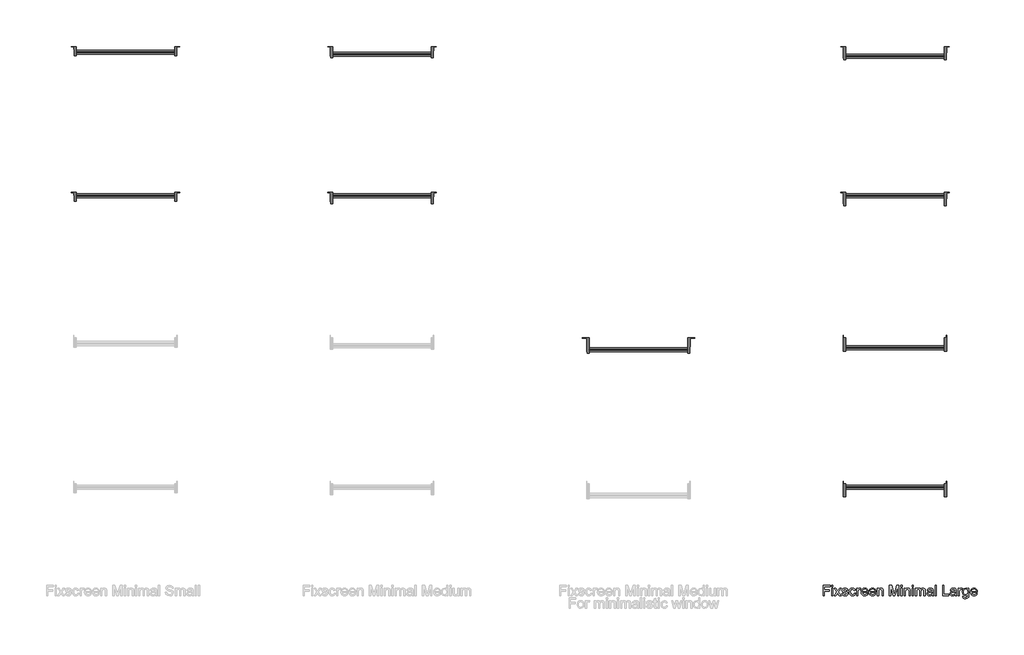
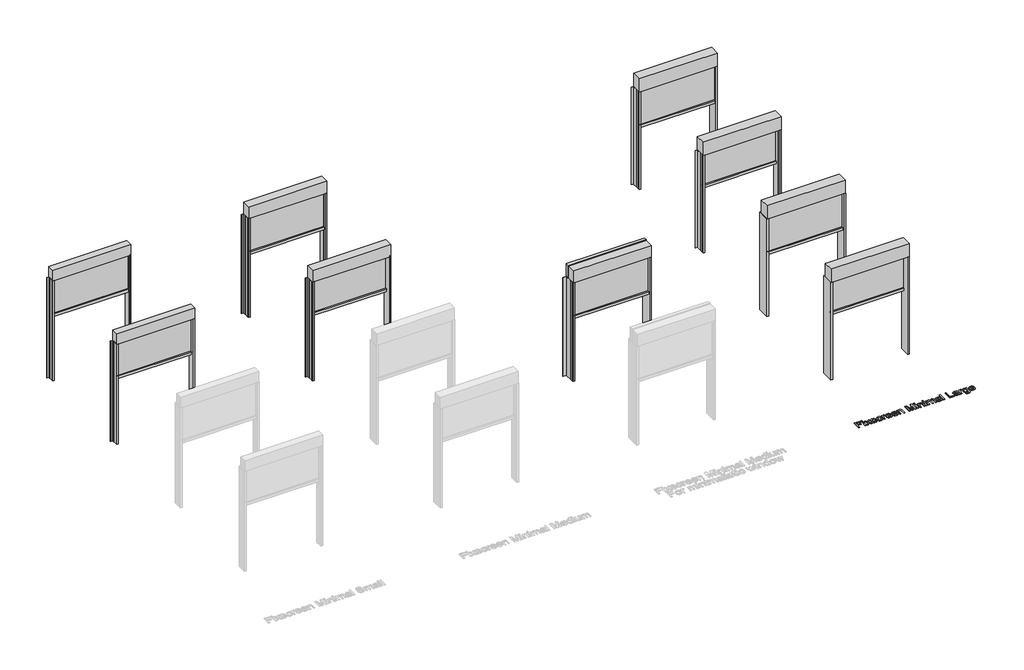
# One storey, part 3 of 3: 10 proxies.
"""IFC4 building model written with IfcOpenShell, lengths in millimetres."""

from ifc_helpers import new_model, si_unit, origin, origin_with_axes, place, context, project, spatial, polyline, outline, extrude, transform, mapped, element, save
from components import generic_models_23fb29be, generic_models_294ff030, generic_models_c61ce915, generic_models_3f5b47c7, generic_models_9211857c, generic_models_f3f074a6, generic_models_7c2f78a0, generic_models_67a18d92, generic_models_946608be

model = new_model("IFC4")

# Units and contexts
model_context = context("Model", 3, world=origin())
ifc_project = project(units=[si_unit("LENGTHUNIT", "METRE", prefix="MILLI")], contexts=[model_context])

# Site, building, storey
site = spatial("IfcSite", under=ifc_project)
building = spatial("IfcBuilding", under=site)
storey = spatial("IfcBuildingStorey", under=building, Name="Fixscreen Mini Overview Top", Elevation=0.0)

# Proxies
placement = place(None, origin())
generic_models_shape = generic_models_23fb29be(model_context)
element("IfcBuildingElementProxy", 1, Name="Renson_Fixscreen_Minimal_Single : Recessed - Front of the window - Small - Access downwards - Fabric away from the window", ObjectType="Renson_Fixscreen_Minimal_Single : Recessed - Front of the window - Small - Access downwards - Fabric away from the window", at=placement, inside=storey, context=model_context, shape_type="MappedRepresentation", body=[
    mapped(generic_models_shape, transform((-7521.5461115, 2135.1171055, 0.0), x_axis=(1.0, 0.0, 0.0), y_axis=(0.0, 1.0, 0.0), z_axis=(0.0, 0.0, 1.0))),
])
generic_models_2_shape = generic_models_294ff030(model_context)
element("IfcBuildingElementProxy", 2, Name="Renson_Fixscreen_Minimal_Single : Recessed - Front of the window - Medium - Access downwards - Fabric away from the window", ObjectType="Renson_Fixscreen_Minimal_Single : Recessed - Front of the window - Medium - Access downwards - Fabric away from the window", at=placement, inside=storey, context=model_context, shape_type="MappedRepresentation", body=[
    mapped(generic_models_2_shape, transform((-5021.5461115, 2135.1171055, 0.0), x_axis=(1.0, 0.0, 0.0), y_axis=(0.0, 1.0, 0.0), z_axis=(0.0, 0.0, 1.0))),
])
generic_models_3_shape = generic_models_c61ce915(model_context)
element("IfcBuildingElementProxy", 3, Name="Renson_Fixscreen_Minimal_Single : Recessed - Front of the window - Large - Access downwards - Fabric close to the window", ObjectType="Renson_Fixscreen_Minimal_Single : Recessed - Front of the window - Large - Access downwards - Fabric close to the window", at=placement, inside=storey, context=model_context, shape_type="MappedRepresentation", body=[
    mapped(generic_models_3_shape, transform((-21.5461115, -2124.4443675, 0.0), x_axis=(1.0, 0.0, 0.0), y_axis=(0.0, 1.0, 0.0), z_axis=(0.0, 0.0, 1.0))),
])
generic_models_4_shape = generic_models_3f5b47c7(model_context)
element("IfcBuildingElementProxy", 4, Name="Renson_Fixscreen_Minimal_Single : Recessed - Front of the window - Large - Access downwards - Fabric away from the window", ObjectType="Renson_Fixscreen_Minimal_Single : Recessed - Front of the window - Large - Access downwards - Fabric away from the window", at=placement, inside=storey, context=model_context, shape_type="MappedRepresentation", body=[
    mapped(generic_models_4_shape, transform((-21.5461115, -704.5905432, 0.0), x_axis=(1.0, 0.0, 0.0), y_axis=(0.0, 1.0, 0.0), z_axis=(0.0, 0.0, 1.0))),
])
generic_models_5_shape = generic_models_9211857c(model_context)
element("IfcBuildingElementProxy", 5, Name="Renson_Fixscreen_Minimal_Single : Recessed - Front of the window - Large - Access downwards - Fabric close to the window", ObjectType="Renson_Fixscreen_Minimal_Single : Recessed - Front of the window - Large - Access downwards - Fabric close to the window", at=placement, inside=storey, context=model_context, shape_type="MappedRepresentation", body=[
    mapped(generic_models_5_shape, transform((-21.5461115, 715.2632811, 0.0), x_axis=(1.0, 0.0, 0.0), y_axis=(0.0, 1.0, 0.0), z_axis=(0.0, 0.0, 1.0))),
])
generic_models_6_shape = generic_models_f3f074a6(model_context)
element("IfcBuildingElementProxy", 6, Name="Renson_Fixscreen_Minimal_Single : Recessed - Front of the window - Large - Access downwards - Fabric away from the window", ObjectType="Renson_Fixscreen_Minimal_Single : Recessed - Front of the window - Large - Access downwards - Fabric away from the window", at=placement, inside=storey, context=model_context, shape_type="MappedRepresentation", body=[
    mapped(generic_models_6_shape, transform((-21.5461115, 2135.1171055, 0.0), x_axis=(1.0, 0.0, 0.0), y_axis=(0.0, 1.0, 0.0), z_axis=(0.0, 0.0, 1.0))),
])
generic_models_7_shape = generic_models_7c2f78a0(model_context)
element("IfcBuildingElementProxy", 7, Name="Renson_Fixscreen_Minimal_Single : Recessed - Front of the window - Small - Access downwards - Fabric close to the window", ObjectType="Renson_Fixscreen_Minimal_Single : Recessed - Front of the window - Small - Access downwards - Fabric close to the window", at=placement, inside=storey, context=model_context, shape_type="MappedRepresentation", body=[
    mapped(generic_models_7_shape, transform((-7521.5461115, 715.2632811, 0.0), x_axis=(1.0, 0.0, 0.0), y_axis=(0.0, 1.0, 0.0), z_axis=(0.0, 0.0, 1.0))),
])
generic_models_8_shape = generic_models_67a18d92(model_context)
element("IfcBuildingElementProxy", 8, Name="Renson_Fixscreen_Minimal_Single : Recessed - Front of the window - Medium - Access downwards - Fabric close to the window", ObjectType="Renson_Fixscreen_Minimal_Single : Recessed - Front of the window - Medium - Access downwards - Fabric close to the window", at=placement, inside=storey, context=model_context, shape_type="MappedRepresentation", body=[
    mapped(generic_models_8_shape, transform((-5021.5461115, 715.2632811, 0.0), x_axis=(1.0, 0.0, 0.0), y_axis=(0.0, 1.0, 0.0), z_axis=(0.0, 0.0, 1.0))),
])
generic_models_9_shape = generic_models_946608be(model_context)
element("IfcBuildingElementProxy", 9, Name="Renson_Fixscreen_Minimal_Single : Recessed - Front of the window - Medium - Access downwards - Fabric away from the window - Minimalistic window", ObjectType="Renson_Fixscreen_Minimal_Single : Recessed - Front of the window - Medium - Access downwards - Fabric away from the window - Minimalistic window", at=placement, inside=storey, context=model_context, shape_type="MappedRepresentation", body=[
    mapped(generic_models_9_shape, transform((-2521.5461115, -704.5905432, 0.0), x_axis=(1.0, 0.0, 0.0), y_axis=(0.0, 1.0, 0.0), z_axis=(0.0, 0.0, 1.0))),
])
element("IfcBuildingElementProxy", 10, Name="100mm Arial", ObjectType="100mm Arial", at=placement, inside=storey, context=model_context, shape_type="SweptSolid", body=[
    extrude(outline(polyline([(-721.4949893, -2523.9021098), (-721.4949893, -2423.4457997), (-654.000906, -2423.4457997), (-654.000906, -2436.0028384), (-708.9379506, -2436.0028384), (-708.9379506, -2465.8258055), (-661.8490552, -2465.8258055), (-661.8490552, -2478.3828443), (-708.9379506, -2478.3828443), (-708.9379506, -2523.9021098), (-721.4949893, -2523.9021098)])), origin_with_axes(), (0.0, 0.0, 1.0), 5.0),
    extrude(outline(polyline([(-638.3046075, -2523.9021098), (-638.3046075, -2450.129507), (-625.7475687, -2450.129507), (-625.7475687, -2523.9021098), (-638.3046075, -2523.9021098)])), origin_with_axes(), (0.0, 0.0, 1.0), 5.0),
    extrude(outline(polyline([(-638.3046075, -2436.0028384), (-638.3046075, -2423.4457997), (-625.7475687, -2423.4457997), (-625.7475687, -2436.0028384), (-638.3046075, -2436.0028384)])), origin_with_axes(), (0.0, 0.0, 1.0), 5.0),
    extrude(outline(polyline([(-614.7601598, -2523.9021098), (-587.9292996, -2486.8196047), (-613.19053, -2450.129507), (-598.0828427, -2450.129507), (-585.8936859, -2467.7878428), (-580.2037777, -2476.1265014), (-575.274159, -2469.3084217), (-561.392745, -2450.129507), (-546.2850578, -2450.129507), (-572.8216124, -2486.8196047), (-547.2660764, -2523.9021098), (-562.3737637, -2523.9021098), (-577.7512311, -2501.6084609), (-580.5716597, -2497.5372335), (-599.6524725, -2523.9021098), (-614.7601598, -2523.9021098)])), origin_with_axes(), (0.0, 0.0, 1.0), 5.0),
    extrude(outline(polyline([(-540.987557, -2501.927292), (-528.4305183, -2500.3576621), (-522.6179827, -2509.6773393), (-509.3006545, -2512.9147009), (-496.4983611, -2509.9471195), (-492.3290318, -2502.981887), (-496.5228866, -2497.3410298), (-509.4478073, -2493.7603117), (-528.3569419, -2487.6166824), (-536.6097613, -2480.4429835), (-539.4179272, -2470.3139659), (-537.1615843, -2460.9575004), (-531.0056922, -2453.808327), (-523.0226529, -2450.0927188), (-512.219185, -2448.5598772), (-496.9398195, -2451.0246866), (-487.2277348, -2457.6956134), (-482.9112527, -2468.9650652), (-495.4682915, -2470.534695), (-500.1894438, -2463.6062508), (-511.2381664, -2461.116916), (-523.2556449, -2463.4958862), (-526.8608884, -2469.0386416), (-525.364835, -2472.6929361), (-520.6804709, -2475.4643138), (-509.8647402, -2478.1375896), (-491.4338523, -2484.048227), (-482.8744645, -2490.7436793), (-479.771993, -2501.6575118), (-483.4140248, -2513.6749903), (-493.9231871, -2522.3937936), (-509.4723328, -2525.4717397), (-522.1336048, -2523.9879489), (-531.3735742, -2519.5365768), (-537.541729, -2512.1666742), (-540.987557, -2501.927292)])), origin_with_axes(), (0.0, 0.0, 1.0), 5.0),
    extrude(outline(polyline([(-418.556429, -2497.2184024), (-405.9993903, -2498.7880323), (-409.5004006, -2509.9563165), (-416.0793569, -2518.3961426), (-425.1169913, -2523.7028404), (-435.9940356, -2525.4717397), (-449.3512177, -2523.0038646), (-459.7960007, -2515.6002395), (-466.5374383, -2503.5858266), (-468.7845841, -2487.2855886), (-464.9463486, -2466.4266794), (-453.2477012, -2453.0235121), (-436.1657139, -2448.5598772), (-425.555384, -2450.0927188), (-417.0726383, -2454.6912438), (-410.987257, -2462.1101974), (-407.5690201, -2472.1043249), (-420.1260589, -2473.6739547), (-425.9508571, -2464.2684384), (-436.067612, -2461.116916), (-444.1824757, -2462.6681517), (-450.6234763, -2467.321859), (-454.8265281, -2475.3294237), (-456.2275453, -2486.942232), (-454.8571849, -2498.7113902), (-450.7461036, -2506.7465461), (-444.421599, -2511.3726622), (-436.4109685, -2512.9147009), (-424.577431, -2509.0642027), (-418.556429, -2497.2184024)])), origin_with_axes(), (0.0, 0.0, 1.0), 5.0),
    extrude(outline(polyline([(-395.0119813, -2523.9021098), (-395.0119813, -2450.129507), (-384.0245724, -2450.129507), (-384.0245724, -2461.0433396), (-376.2254741, -2450.9878984), (-368.3773249, -2448.5598772), (-355.7712352, -2452.4349009), (-359.9650899, -2463.6920899), (-368.7942578, -2461.116916), (-375.8943803, -2463.5939881), (-380.4193289, -2470.4611186), (-382.4549426, -2485.1273475), (-382.4549426, -2523.9021098), (-395.0119813, -2523.9021098)])), origin_with_axes(), (0.0, 0.0, 1.0), 5.0),
    extrude(outline(polyline([(-296.2724538, -2501.927292), (-283.9606697, -2503.4969218), (-288.3967135, -2512.7736795), (-295.4753762, -2519.7082551), (-305.0372424, -2524.0308685), (-316.9228965, -2525.4717397), (-331.6565704, -2522.9854705), (-342.9934672, -2515.5266631), (-350.2223484, -2503.5796953), (-352.6319755, -2487.6289451), (-350.197823, -2471.1417003), (-342.8953654, -2458.8115221), (-331.7117527, -2451.1227884), (-317.634135, -2448.5598772), (-303.9949101, -2451.1166571), (-293.096406, -2458.7869967), (-285.9502982, -2471.0926494), (-283.5682623, -2487.5553687), (-283.6418387, -2490.939883), (-340.0749367, -2490.939883), (-337.9013673, -2500.339268), (-332.8521869, -2507.2493182), (-325.5650577, -2511.4983552), (-316.6776418, -2512.9147009), (-304.3658577, -2510.290476), (-296.2724538, -2501.927292)]), holes=[polyline([(-340.0749367, -2478.3828443), (-296.125301, -2478.3828443), (-301.1530216, -2467.0030279), (-308.4738734, -2462.588444), (-317.683186, -2461.116916), (-333.1464925, -2465.8135428), (-338.0117319, -2471.3041816), (-340.0749367, -2478.3828443)])]), origin_with_axes(), (0.0, 0.0, 1.0), 5.0),
    extrude(outline(polyline([(-219.3605914, -2501.927292), (-207.0488073, -2503.4969218), (-211.484851, -2512.7736795), (-218.5635137, -2519.7082551), (-228.1253799, -2524.0308685), (-240.011034, -2525.4717397), (-254.744708, -2522.9854705), (-266.0816048, -2515.5266631), (-273.310486, -2503.5796953), (-275.720113, -2487.6289451), (-273.2859605, -2471.1417003), (-265.9835029, -2458.8115221), (-254.7998903, -2451.1227884), (-240.7222726, -2448.5598772), (-227.0830476, -2451.1166571), (-216.1845435, -2458.7869967), (-209.0384357, -2471.0926494), (-206.6563998, -2487.5553687), (-206.7299762, -2490.939883), (-263.1630743, -2490.939883), (-260.9895048, -2500.339268), (-255.9403244, -2507.2493182), (-248.6531953, -2511.4983552), (-239.7657794, -2512.9147009), (-227.4539953, -2510.290476), (-219.3605914, -2501.927292)]), holes=[polyline([(-263.1630743, -2478.3828443), (-219.2134386, -2478.3828443), (-224.2411592, -2467.0030279), (-231.5620109, -2462.588444), (-240.7713235, -2461.116916), (-256.23463, -2465.8135428), (-261.0998694, -2471.3041816), (-263.1630743, -2478.3828443)])]), origin_with_axes(), (0.0, 0.0, 1.0), 5.0),
    extrude(outline(polyline([(-194.0993611, -2523.9021098), (-194.0993611, -2450.129507), (-181.5423223, -2450.129507), (-181.5423223, -2460.4302029), (-171.9406022, -2451.5274586), (-158.8317404, -2448.5598772), (-146.9736775, -2450.9511102), (-138.8802736, -2457.2296296), (-135.1156145, -2466.4634676), (-134.4534269, -2478.6035735), (-134.4534269, -2523.9021098), (-147.0104657, -2523.9021098), (-147.0104657, -2480.2958307), (-148.4574682, -2469.1857944), (-153.5710279, -2463.3119452), (-162.1917293, -2461.116916), (-175.8156259, -2466.0465347), (-180.1106482, -2473.1895768), (-181.5423223, -2484.7594655), (-181.5423223, -2523.9021098), (-194.0993611, -2523.9021098)])), origin_with_axes(), (0.0, 0.0, 1.0), 5.0),
    extrude(outline(polyline([(-76.3771226, -2523.9021098), (-76.3771226, -2423.4457997), (-54.7701867, -2423.4457997), (-34.2178459, -2494.250821), (-30.0730421, -2509.0396772), (-25.5848818, -2493.0245477), (-5.3758975, -2423.4457997), (16.2310383, -2423.4457997), (16.2310383, -2523.9021098), (3.6739996, -2523.9021098), (3.6739996, -2436.0028384), (-21.5627053, -2523.9021098), (-38.583379, -2523.9021098), (-63.8200838, -2436.0028384), (-63.8200838, -2523.9021098), (-76.3771226, -2523.9021098)])), origin_with_axes(), (0.0, 0.0, 1.0), 5.0),
    extrude(outline(polyline([(36.6362263, -2436.0028384), (36.6362263, -2423.4457997), (49.1932651, -2423.4457997), (49.1932651, -2436.0028384), (36.6362263, -2436.0028384)])), origin_with_axes(), (0.0, 0.0, 1.0), 5.0),
    extrude(outline(polyline([(36.6362263, -2523.9021098), (36.6362263, -2450.129507), (49.1932651, -2450.129507), (49.1932651, -2523.9021098), (36.6362263, -2523.9021098)])), origin_with_axes(), (0.0, 0.0, 1.0), 5.0),
    extrude(outline(polyline([(68.0288232, -2523.9021098), (68.0288232, -2450.129507), (80.585862, -2450.129507), (80.585862, -2460.4302029), (90.1875821, -2451.5274586), (103.2964439, -2448.5598772), (115.1545068, -2450.9511102), (123.2479107, -2457.2296296), (127.0125698, -2466.4634676), (127.6747574, -2478.6035735), (127.6747574, -2523.9021098), (115.1177186, -2523.9021098), (115.1177186, -2480.2958307), (113.6707161, -2469.1857944), (108.5571564, -2463.3119452), (99.936455, -2461.116916), (86.3125584, -2466.0465347), (82.0175361, -2473.1895768), (80.585862, -2484.7594655), (80.585862, -2523.9021098), (68.0288232, -2523.9021098)])), origin_with_axes(), (0.0, 0.0, 1.0), 5.0),
    extrude(outline(polyline([(144.9406857, -2523.9021098), (144.9406857, -2450.129507), (157.4977245, -2450.129507), (157.4977245, -2523.9021098), (144.9406857, -2523.9021098)])), origin_with_axes(), (0.0, 0.0, 1.0), 5.0),
    extrude(outline(polyline([(144.9406857, -2436.0028384), (144.9406857, -2423.4457997), (157.4977245, -2423.4457997), (157.4977245, -2436.0028384), (144.9406857, -2436.0028384)])), origin_with_axes(), (0.0, 0.0, 1.0), 5.0),
    extrude(outline(polyline([(176.3332826, -2523.9021098), (176.3332826, -2450.129507), (188.8903214, -2450.129507), (188.8903214, -2462.2696129), (197.5232855, -2452.3245363), (209.8105442, -2448.5598772), (222.3921084, -2452.3981127), (229.3082899, -2463.1525297), (239.1062137, -2452.2080403), (251.4793115, -2448.5598772), (260.9185504, -2450.0773904), (267.8991112, -2454.6299301), (272.2125276, -2462.3401236), (273.6503331, -2473.3305982), (273.6503331, -2523.9021098), (261.0932943, -2523.9021098), (261.0932943, -2478.7262008), (259.9283347, -2468.2415639), (255.7099545, -2463.0789533), (248.5362555, -2461.116916), (236.1876832, -2466.1446366), (232.4996662, -2472.6868047), (231.2703272, -2482.257868), (231.2703272, -2523.9021098), (218.7132885, -2523.9021098), (218.7132885, -2477.3282492), (215.8070207, -2465.1636179), (206.278877, -2461.116916), (196.9837253, -2463.8147173), (190.8033078, -2471.7119174), (188.8903214, -2486.6969774), (188.8903214, -2523.9021098), (176.3332826, -2523.9021098)])), origin_with_axes(), (0.0, 0.0, 1.0), 5.0),
    extrude(outline(polyline([(339.5747866, -2514.4843307), (327.3978926, -2522.9946676), (313.9456743, -2525.4717397), (303.4518404, -2523.9818176), (295.7109901, -2519.5120513), (290.9377212, -2512.7246285), (289.3466315, -2504.2817367), (291.7501272, -2494.3489229), (298.0654348, -2487.1384358), (306.8578145, -2483.0181574), (317.7225961, -2481.1296965), (339.5012102, -2476.8132144), (339.5747866, -2474.0173113), (336.1166959, -2464.746685), (322.2352819, -2461.116916), (309.5310903, -2463.5326744), (303.4733002, -2472.1043249), (290.9162614, -2470.534695), (296.3486522, -2458.2719619), (307.2870102, -2451.0860002), (323.8539627, -2448.5598772), (339.0720146, -2450.7916946), (347.6681905, -2456.3957637), (351.5186887, -2464.9183633), (352.1318254, -2475.9057722), (352.1318254, -2491.5284942), (352.7694875, -2513.3438966), (355.2710851, -2523.9021098), (342.7140463, -2523.9021098), (339.5747866, -2514.4843307)]), holes=[polyline([(339.5747866, -2489.3702532), (319.3167514, -2493.2207514), (308.5132835, -2495.2563651), (303.620453, -2498.5673031), (301.9036703, -2503.39882), (305.6438039, -2510.1923741), (316.6189501, -2512.9147009), (329.3231417, -2509.9103313), (337.5146474, -2502.6385305), (339.5012102, -2492.9264458), (339.5747866, -2489.3702532)])]), origin_with_axes(), (0.0, 0.0, 1.0), 5.0),
    extrude(outline(polyline([(369.3977537, -2523.9021098), (369.3977537, -2423.4457997), (381.9547925, -2423.4457997), (381.9547925, -2523.9021098), (369.3977537, -2523.9021098)])), origin_with_axes(), (0.0, 0.0, 1.0), 5.0),
    extrude(outline(polyline([(441.6007266, -2523.9021098), (441.6007266, -2423.4457997), (454.1577654, -2423.4457997), (454.1577654, -2511.345071), (504.3859205, -2511.345071), (504.3859205, -2523.9021098), (441.6007266, -2523.9021098)])), origin_with_axes(), (0.0, 0.0, 1.0), 5.0),
    extrude(outline(polyline([(564.0318546, -2514.4843307), (551.8549606, -2522.9946676), (538.4027423, -2525.4717397), (527.9089084, -2523.9818176), (520.1680581, -2519.5120513), (515.3947892, -2512.7246285), (513.8036995, -2504.2817367), (516.2071952, -2494.3489229), (522.5225028, -2487.1384358), (531.3148825, -2483.0181574), (542.1796641, -2481.1296965), (563.9582782, -2476.8132144), (564.0318546, -2474.0173113), (560.5737639, -2464.746685), (546.6923499, -2461.116916), (533.9881583, -2463.5326744), (527.9303681, -2472.1043249), (515.3733294, -2470.534695), (520.8057202, -2458.2719619), (531.7440782, -2451.0860002), (548.3110307, -2448.5598772), (563.5290825, -2450.7916946), (572.1252585, -2456.3957637), (575.9757567, -2464.9183633), (576.5888934, -2475.9057722), (576.5888934, -2491.5284942), (577.2265555, -2513.3438966), (579.7281531, -2523.9021098), (567.1711143, -2523.9021098), (564.0318546, -2514.4843307)]), holes=[polyline([(564.0318546, -2489.3702532), (543.7738194, -2493.2207514), (532.9703515, -2495.2563651), (528.0775209, -2498.5673031), (526.3607383, -2503.39882), (530.1008719, -2510.1923741), (541.0760181, -2512.9147009), (553.7802097, -2509.9103313), (561.9717154, -2502.6385305), (563.9582782, -2492.9264458), (564.0318546, -2489.3702532)])]), origin_with_axes(), (0.0, 0.0, 1.0), 5.0),
    extrude(outline(polyline([(593.8548217, -2523.9021098), (593.8548217, -2450.129507), (604.8422306, -2450.129507), (604.8422306, -2461.0433396), (612.6413289, -2450.9878984), (620.4894781, -2448.5598772), (633.0955678, -2452.4349009), (628.9017131, -2463.6920899), (620.0725452, -2461.116916), (612.9724227, -2463.5939881), (608.4474742, -2470.4611186), (606.4118605, -2485.1273475), (606.4118605, -2523.9021098), (593.8548217, -2523.9021098)])), origin_with_axes(), (0.0, 0.0, 1.0), 5.0),
    extrude(outline(polyline([(637.8044574, -2530.1806292), (650.3614961, -2531.750259), (654.4327236, -2538.372135), (666.6218803, -2541.1680381), (679.4732247, -2538.004253), (685.6045913, -2529.1260341), (686.4629826, -2514.4843307), (677.621552, -2521.547665), (666.8426095, -2523.9021098), (653.896229, -2521.161389), (644.2423923, -2512.9392264), (638.2367187, -2500.8849597), (636.2348275, -2486.6479264), (639.8278083, -2467.1869689), (650.2266061, -2453.4159195), (666.2294729, -2448.5598772), (677.4314796, -2451.3067294), (686.4629826, -2459.5472861), (686.4629826, -2450.129507), (699.0200214, -2450.129507), (699.0200214, -2513.8221431), (695.5864561, -2538.2127194), (684.7094118, -2549.5557476), (666.3766257, -2553.7250769), (654.6933066, -2552.2566146), (645.4931911, -2547.8512277), (639.5917507, -2540.4966535), (637.8044574, -2530.1806292)]), holes=[polyline([(648.7918663, -2485.7895351), (650.1315699, -2497.3073072), (654.1506807, -2505.2259672), (660.1931425, -2509.8152951), (667.602899, -2511.345071), (674.9574732, -2509.8244921), (681.0305918, -2505.2627554), (685.1048849, -2497.445263), (686.4629826, -2486.1574171), (685.065031, -2475.2711757), (680.8711763, -2467.4322236), (674.7091529, -2462.6957429), (667.4066953, -2461.116916), (660.236062, -2462.6712174), (654.2242571, -2467.3341217), (650.149964, -2475.0565779), (648.7918663, -2485.7895351)])]), origin_with_axes(), (0.0, 0.0, 1.0), 5.0),
    extrude(outline(polyline([(769.5062116, -2501.927292), (781.8179958, -2503.4969218), (777.381952, -2512.7736795), (770.3032893, -2519.7082551), (760.7414231, -2524.0308685), (748.855769, -2525.4717397), (734.1220951, -2522.9854705), (722.7851983, -2515.5266631), (715.5563171, -2503.5796953), (713.14669, -2487.6289451), (715.5808425, -2471.1417003), (722.8833001, -2458.8115221), (734.0669128, -2451.1227884), (748.1445305, -2448.5598772), (761.7837554, -2451.1166571), (772.6822595, -2458.7869967), (779.8283673, -2471.0926494), (782.2104032, -2487.5553687), (782.1368268, -2490.939883), (725.7037288, -2490.939883), (727.8772982, -2500.339268), (732.9264786, -2507.2493182), (740.2136078, -2511.4983552), (749.1010237, -2512.9147009), (761.4128078, -2510.290476), (769.5062116, -2501.927292)]), holes=[polyline([(725.7037288, -2478.3828443), (769.6533644, -2478.3828443), (764.6256438, -2467.0030279), (757.3047921, -2462.588444), (748.0954795, -2461.116916), (732.632173, -2465.8135428), (727.7669336, -2471.3041816), (725.7037288, -2478.3828443)])]), origin_with_axes(), (0.0, 0.0, 1.0), 5.0),
])

save(model, "model.ifc")
